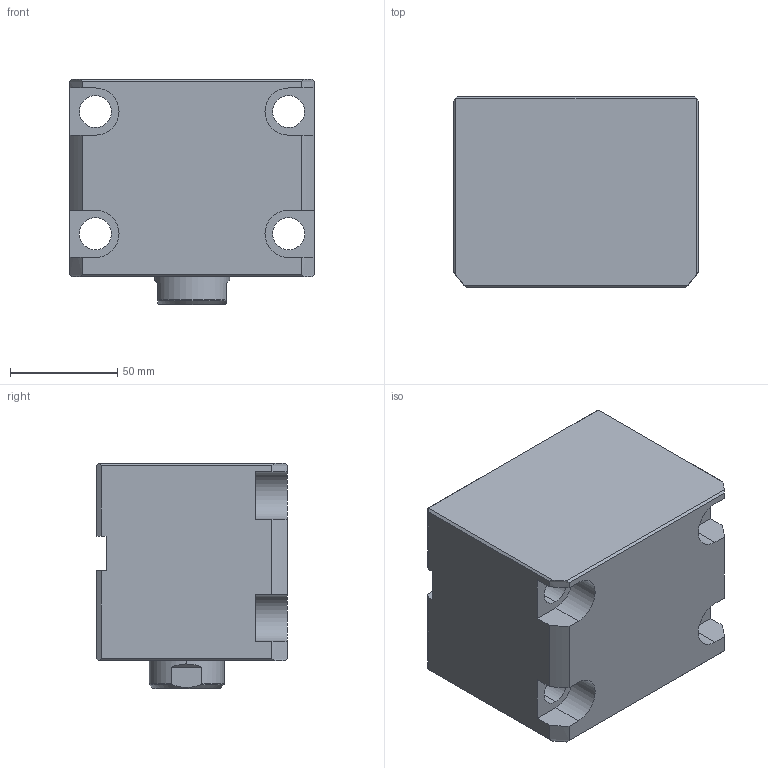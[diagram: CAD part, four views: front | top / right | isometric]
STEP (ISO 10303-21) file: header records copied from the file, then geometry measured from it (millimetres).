
FILE_DESCRIPTION (( 'STEP AP214' ), '1' );
FILE_NAME ('chtb-lam63x25n_asm.STEP', '2018-05-22T02:54:06', ( 'Windows' ), ( 'Microsoft' ), 'SwSTEP 2.0', 'SolidWorks 2015', '' );
FILE_SCHEMA (( 'AUTOMOTIVE_DESIGN' ));
Length unit declared in the file: millimetre
Products named in the file (4): CHTB-LAM63X25NBT; CHTB63X25NHSG; CHTB-63QG; chtb-lam63x25n_asm
Assembly tree (3 placements, depth 2):
  chtb-lam63x25n_asm
    CHTB-63QG
    CHTB63X25NHSG
    CHTB-LAM63X25NBT
Bounding box: 114 x 89 x 105 mm (x, y, z)
Volume: 791282.4 mm3; surface area: 128123.3 mm2
Topology: 3 solids, 3 shells, 176 faces, 524 edges, 356 vertices
Faces by surface type: cylinder 96, plane 51, bspline 13, cone 8, torus 8
Entity records: 18805 total; most frequent: CARTESIAN_POINT 14319, ORIENTED_EDGE 1036, DIRECTION 751, EDGE_CURVE 518, VERTEX_POINT 356, AXIS2_PLACEMENT_3D 277, EDGE_LOOP 198, LINE 197
